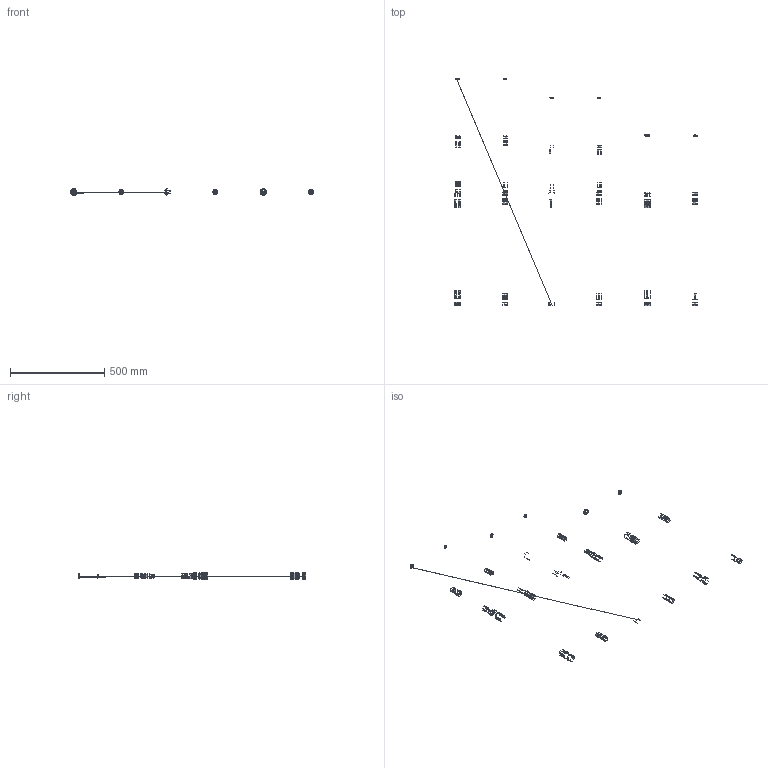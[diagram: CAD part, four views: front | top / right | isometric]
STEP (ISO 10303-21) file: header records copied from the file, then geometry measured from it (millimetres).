
FILE_DESCRIPTION(('STEP AP214'),'1');
FILE_NAME('2r3z04a0h7iz.stp','2021-02-26T08:41:21',(' '),(' '),'Spatial InterOp 3D',' ',' ');
FILE_SCHEMA(('automotive_design'));
Length unit declared in the file: metre
Products named in the file (1): Root
Bounding box: 1288.4 x 1204.56 x 35.5 mm (x, y, z)
Surface area: 0 mm2 (no closed solid volume)
Topology: 0 solids, 4886 shells, 4886 faces, 12496 edges, 12496 vertices
Faces by surface type: plane 4886
Entity records: 214856 total; most frequent: CARTESIAN_POINT 34127, VERTEX_POINT 34126, DIRECTION 24432, ORIENTED_EDGE 14658, EDGE_CURVE 14658, LINE 14658, VECTOR 14658, AXIS2_PLACEMENT_3D 4887
